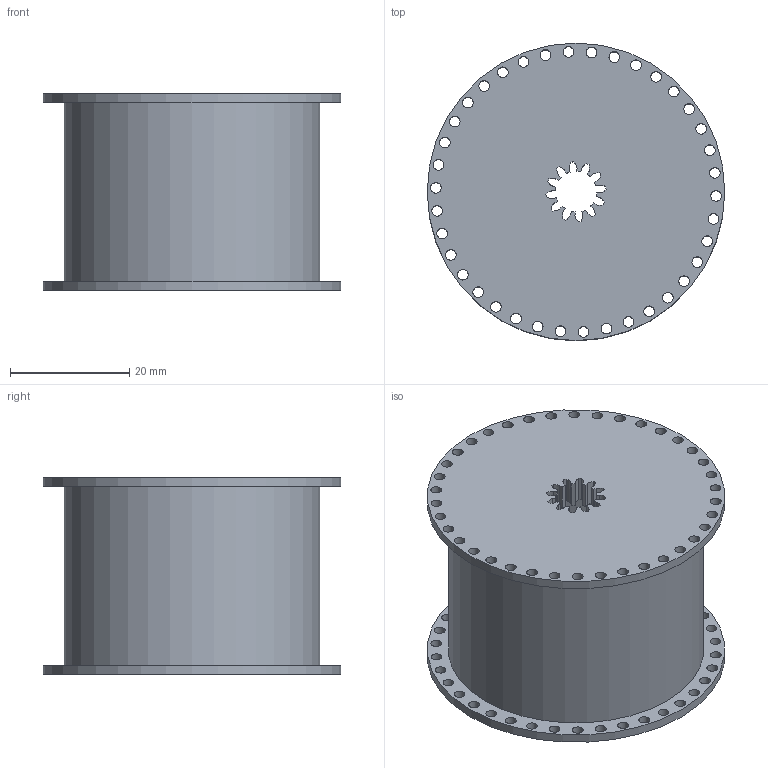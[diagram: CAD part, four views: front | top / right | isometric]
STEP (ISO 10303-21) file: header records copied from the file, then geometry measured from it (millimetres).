
FILE_DESCRIPTION(('Open CASCADE Model'),'2;1');
FILE_NAME('Open CASCADE Shape Model','2026-10-23T16:06:29',('Author'),( 'Open CASCADE'),'Open CASCADE STEP processor 7.8','Open CASCADE 7.8' ,'Unknown');
FILE_SCHEMA(('AUTOMOTIVE_DESIGN { 1 0 10303 214 1 1 1 1 }'));
Length unit declared in the file: millimetre
Products named in the file (1): Open CASCADE STEP translator 7.8 8
Bounding box: 50 x 50 x 33.1 mm (x, y, z)
Volume: 11853.8 mm3; surface area: 13845.1 mm2
Topology: 1 solids, 1 shells, 166 faces, 478 edges, 318 vertices
Faces by surface type: cylinder 96, plane 43, bspline 24, torus 3
Full cylindrical faces by diameter (mm): 1.8 x76, 28 x1, 39.75 x1, 42.95 x1, 50 x2
Entity records: 12495 total; most frequent: CARTESIAN_POINT 3076, DIRECTION 1637, ORIENTED_EDGE 956, PCURVE 956, DEFINITIONAL_REPRESENTATION 956, LINE 842, VECTOR 842, EDGE_CURVE 478
